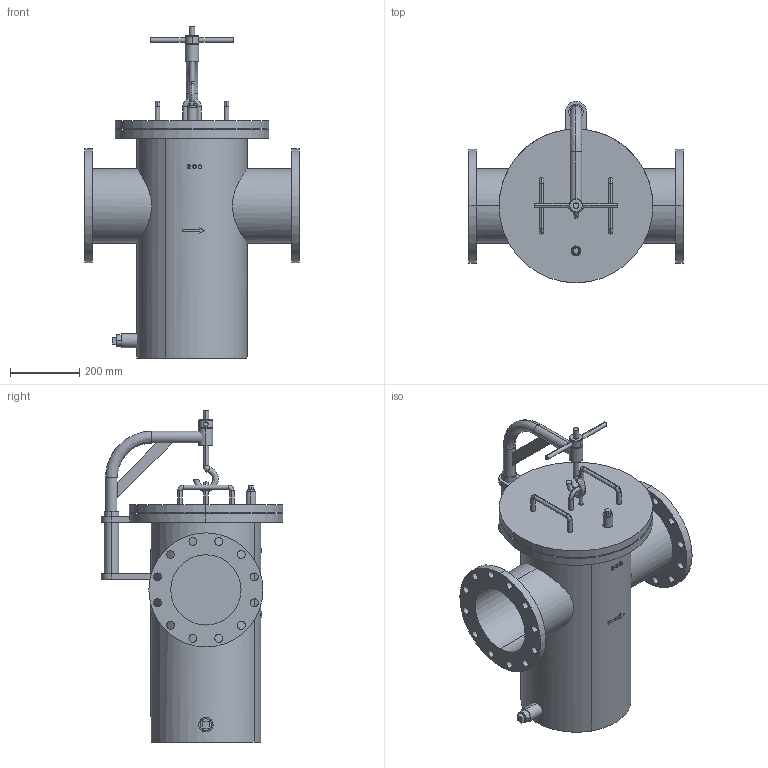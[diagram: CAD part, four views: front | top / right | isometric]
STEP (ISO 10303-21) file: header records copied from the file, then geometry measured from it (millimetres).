
FILE_DESCRIPTION( (''), '2;1');
FILE_NAME ('PC1056.128.SU-6(200A)_27720.stp','2024-07-26T09:49:23',(''),(''),'spGate 19.8.4 (****-****-****-****)','','');
FILE_SCHEMA (('AUTOMOTIVE_DESIGN'));
Length unit declared in the file: millimetre
Products named in the file (34): Assembly; SU6(200A)本体P; PC1056-prt1; PC1056-prt2; PC1056-prt3; PC1056-prt4; PC1056-prt5; ふた側フック_M4; PC1056-prt7; PC1056-prt8; PC1056-prt9; PC1056-prt10; PC1056-prt11; PC1056-prt12; PC1056-prt13; 200A取っ手_M6; PC1056-prt15; PC1056-prt16; PC1056-prt17; PC1056-prt18; 200Aダビッド_M5; PC1056-prt20; PC1056-prt21; PC1056-prt22; 200Aダビッド_M8; 200Aハンドル; plug-25A-JISB2301; PC1056-prt26; PC1056-prt27; PC1056-prt28; PC1056-prt29; PC1056-prt30; 吊り下げフック_M5; 四角頭R1_2プラグ
Assembly tree (34 placements, depth 2):
  Assembly
    SU6(200A)本体P
    PC1056-prt1
    PC1056-prt2
    PC1056-prt3
    PC1056-prt4
    PC1056-prt5
    ふた側フック_M4
    PC1056-prt7
    PC1056-prt8
    PC1056-prt9
    PC1056-prt10
    PC1056-prt11
    PC1056-prt12
    PC1056-prt13
    200A取っ手_M6  x2
    PC1056-prt15
    PC1056-prt16
    PC1056-prt17
    PC1056-prt18
    200Aダビッド_M5
    PC1056-prt20
    PC1056-prt21
    PC1056-prt22
    200Aダビッド_M8
    200Aハンドル
    plug-25A-JISB2301
    PC1056-prt26
    PC1056-prt27
    PC1056-prt28
    PC1056-prt29
    PC1056-prt30
    吊り下げフック_M5
    四角頭R1_2プラグ
Bounding box: 620 x 525.49 x 960.5 mm (x, y, z)
Volume: 63654346.5 mm3; surface area: 1997877.5 mm2
Topology: 10 solids, 10 shells, 305 faces, 750 edges, 519 vertices
Faces by surface type: cylinder 160, plane 92, bspline 53
Entity records: 18566 total; most frequent: CARTESIAN_POINT 5400, DIRECTION 1426, ORIENTED_EDGE 1392, COLOUR_RGB 1022, PRESENTATION_STYLE_ASSIGNMENT 1022, STYLED_ITEM 1022, DRAUGHTING_PRE_DEFINED_CURVE_FONT 720, CURVE_STYLE 720
